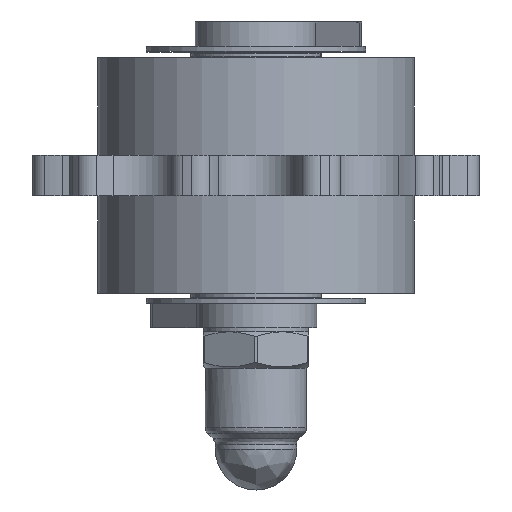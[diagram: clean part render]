
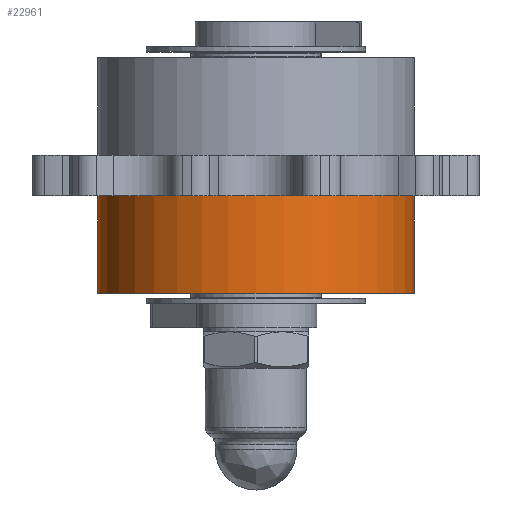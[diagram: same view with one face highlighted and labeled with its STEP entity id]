
A CAD part, left-side view. The second image highlights one B-rep face of the part: STEP entity #22961.
In plain terms, the highlighted cylindrical face has radius 19.5 mm (diameter 39 mm), a full revolution.
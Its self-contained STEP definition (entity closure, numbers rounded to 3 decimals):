
#3000 = FACE_OUTER_BOUND ( 'NONE', #17240, .T. ) ;
#3562 = EDGE_LOOP ( 'NONE', ( #9605 ) ) ;
#8893 = CARTESIAN_POINT ( 'NONE',  ( 0., -30.2, 0. ) ) ;
#9453 = CYLINDRICAL_SURFACE ( 'NONE', #30915, 19.5 ) ;
#9605 = ORIENTED_EDGE ( 'NONE', *, *, #30925, .F. ) ;
#15674 = VERTEX_POINT ( 'NONE', #29192 ) ;
#15727 = ORIENTED_EDGE ( 'NONE', *, *, #20684, .T. ) ;
#15985 = DIRECTION ( 'NONE',  ( 0., 0., -1. ) ) ;
#16108 = DIRECTION ( 'NONE',  ( 0., -1., 0. ) ) ;
#17240 = EDGE_LOOP ( 'NONE', ( #15727 ) ) ;
#20684 = EDGE_CURVE ( 'NONE', #42987, #42987, #40372, .T. ) ;
#22961 = ADVANCED_FACE ( 'NONE', ( #3000, #40068 ), #9453, .T. ) ;
#23030 = AXIS2_PLACEMENT_3D ( 'NONE', #35099, #28426, #38015 ) ;
#25857 = CARTESIAN_POINT ( 'NONE',  ( 0., -30.2, -19.5 ) ) ;
#28426 = DIRECTION ( 'NONE',  ( 0., 1., 0. ) ) ;
#29192 = CARTESIAN_POINT ( 'NONE',  ( 0., -18.2, -19.5 ) ) ;
#30395 = AXIS2_PLACEMENT_3D ( 'NONE', #8893, #43501, #15985 ) ;
#30915 = AXIS2_PLACEMENT_3D ( 'NONE', #36261, #16108, #39179 ) ;
#30925 = EDGE_CURVE ( 'NONE', #15674, #15674, #34373, .T. ) ;
#34373 = CIRCLE ( 'NONE', #23030, 19.5 ) ;
#35099 = CARTESIAN_POINT ( 'NONE',  ( 0., -18.2, 0. ) ) ;
#36261 = CARTESIAN_POINT ( 'NONE',  ( 0., -18.2, 0. ) ) ;
#38015 = DIRECTION ( 'NONE',  ( 0., 0., -1. ) ) ;
#39179 = DIRECTION ( 'NONE',  ( 0., 0., -1. ) ) ;
#40068 = FACE_OUTER_BOUND ( 'NONE', #3562, .T. ) ;
#40372 = CIRCLE ( 'NONE', #30395, 19.5 ) ;
#42987 = VERTEX_POINT ( 'NONE', #25857 ) ;
#43501 = DIRECTION ( 'NONE',  ( 0., 1., 0. ) ) ;
